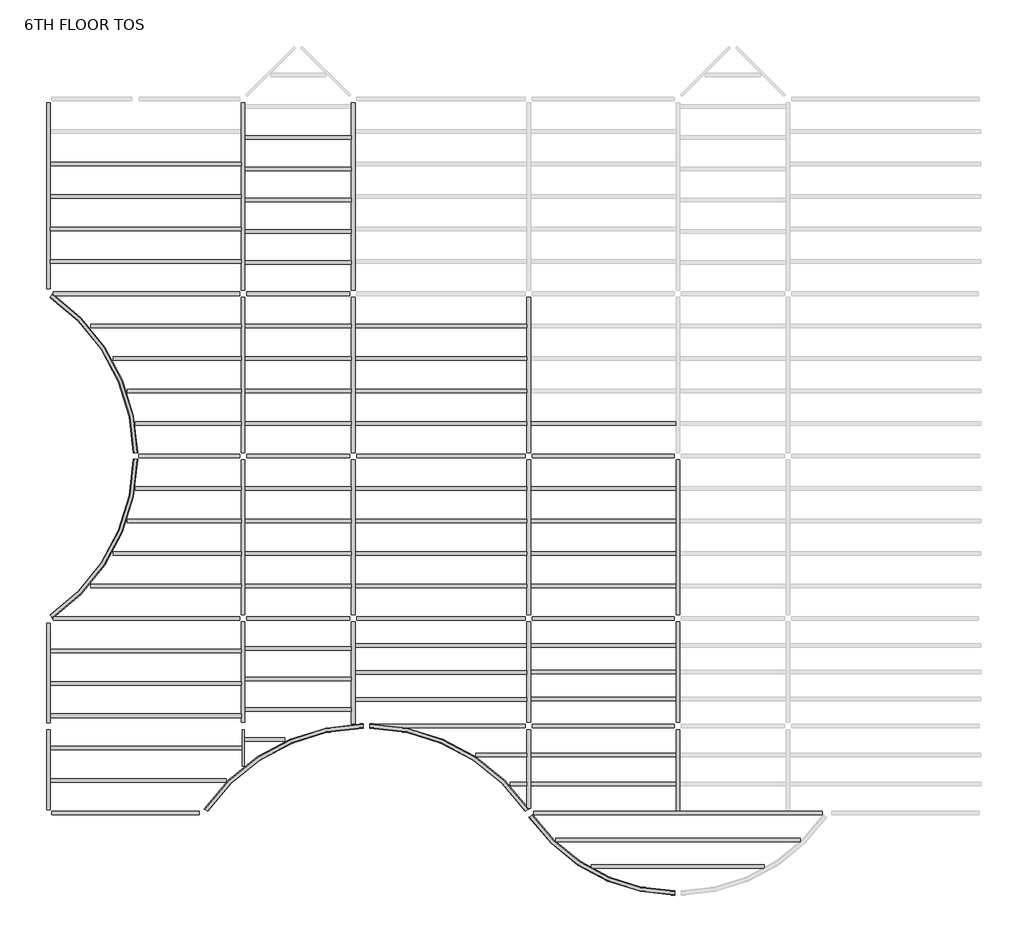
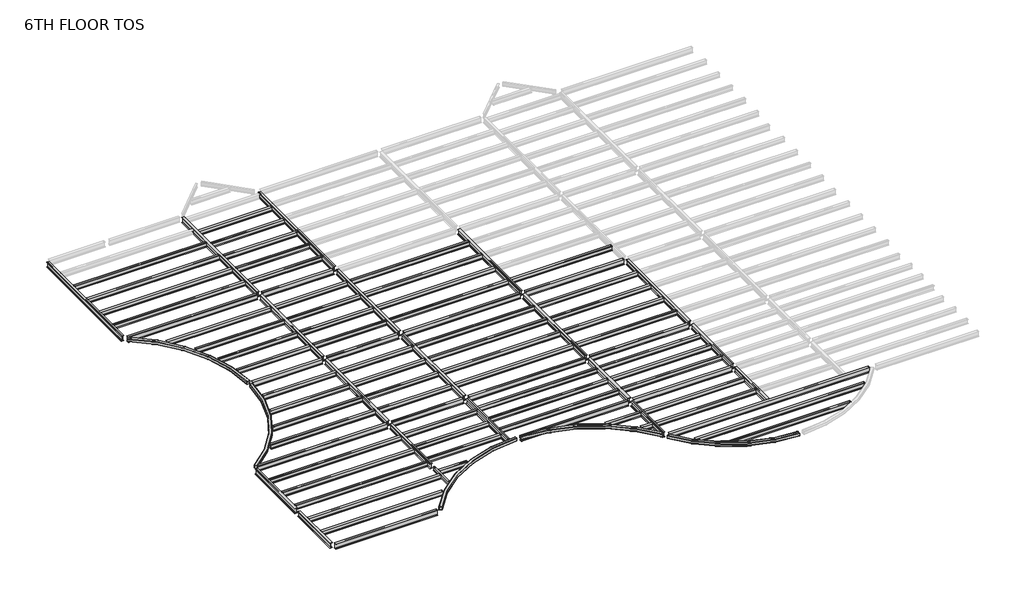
# One storey, part 1 of 2: 97 beams.
"""IFC4 building model written with IfcOpenShell, lengths in millimetres."""

from ifc_helpers import new_model, si_unit, origin, place, context, project, spatial, transform, mapped, element, save
from components import m_hss_square_hss203_2x203_2x9_5_914ff4eb, m_hss_square_hss203_2x203_2x9_5_0e3d8e6e, m_hss_square_hss203_2x203_2x9_5_16dc1c03, m_hss_square_hss203_2x203_2x9_5_18346204, m_hss_square_hss203_2x203_2x9_5_d5f1e8c4, ub_universal_beams_ub254x102x28_4e7f3726, ub_universal_beams_ub305x165x40_c4d0385b, ub_universal_beams_ub305x165x40_d3abc31d, ub_universal_beams_ub305x165x40_0c73730f, ub_universal_beams_ub305x165x40_2a963f0c, ub_universal_beams_ub305x165x40_0a5f2f96, ub_universal_beams_ub305x165x40_d1f7c369, ub_universal_beams_ub305x165x40_83d7b7d5, ub_universal_beams_ub305x165x40_729a4ea5, ub_universal_beams_ub305x165x40_71dfa851, ub_universal_beams_ub305x165x40_619b5398, ub_universal_beams_ub305x165x40_c3492db1, ub_universal_beams_ub305x165x40_8f1c350d, ub_universal_beams_ub305x165x40_3afb5f90, ub_universal_beams_ub305x165x40_767d1929, ub_universal_beams_ub305x165x40_5941ca45, ub_universal_beams_ub356x171x51_ef72dcdd, ub_universal_beams_ub356x171x51_7f80702c, ub_universal_beams_ub356x171x51_dfc36663, ub_universal_beams_ub356x171x51_405a853e, ub_universal_beams_ub356x171x51_e47b7055, ub_universal_beams_ub356x171x51_e97f8d2e, ub_universal_beams_ub356x171x51_11d6b780, ub_universal_beams_ub356x171x51_76b2d20b, ub_universal_beams_ub356x171x51_145ecd4b, ub_universal_beams_ub356x171x51_c7dff8d2, ub_universal_beams_ub356x171x51_834c6e34, ub_universal_beams_ub356x171x51_a38b99de, ub_universal_beams_ub356x171x51_d8f4cdde, ub_universal_beams_ub356x171x51_8094f821, ub_universal_beams_ub356x171x51_c03c70fb, ub_universal_beams_ub356x171x51_e661f2e4, ub_universal_beams_ub356x171x51_3ee91673, ub_universal_beams_ub356x171x51_a871b283, ub_universal_beams_ub356x171x51_741bae58

model = new_model("IFC4")

# Units and contexts
model_context = context("Model", 3, world=origin())
ifc_project = project(units=[si_unit("LENGTHUNIT", "METRE", prefix="MILLI")], contexts=[model_context])

# Site, building, storey
site = spatial("IfcSite", under=ifc_project)
building = spatial("IfcBuilding", under=site)
storey = spatial("IfcBuildingStorey", under=building, Name="6TH FLOOR TOS", Elevation=27279.6)

# Beams
placement = place(None, origin())
m_hss_square_hss203_2x203_2x9_5_shape = m_hss_square_hss203_2x203_2x9_5_914ff4eb(model_context)
element("IfcBeam", 1, ObjectType="M_HSS Square : HSS203.2X203.2X9.5", at=placement, inside=storey, context=model_context, shape_type="MappedRepresentation", body=[
    mapped(m_hss_square_hss203_2x203_2x9_5_shape, transform((22710.575, 155.575, 27178.1), x_axis=(-0.552849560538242, 0.8332810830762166, 0.0), y_axis=(-0.8332810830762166, -0.552849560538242, 0.0), z_axis=(0.0, 0.0, 1.0))),
])
m_hss_square_hss203_2x203_2x9_5_2_shape = m_hss_square_hss203_2x203_2x9_5_0e3d8e6e(model_context)
element("IfcBeam", 2, ObjectType="M_HSS Square : HSS203.2X203.2X9.5", at=placement, inside=storey, context=model_context, shape_type="MappedRepresentation", body=[
    mapped(m_hss_square_hss203_2x203_2x9_5_2_shape, transform((155.575, 9299.575, 27178.1), x_axis=(0.8332810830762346, 0.5528495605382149, 0.0), y_axis=(-0.5528495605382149, 0.8332810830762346, 0.0), z_axis=(0.0, 0.0, 1.0))),
])
m_hss_square_hss203_2x203_2x9_5_3_shape = m_hss_square_hss203_2x203_2x9_5_16dc1c03(model_context)
element("IfcBeam", 3, ObjectType="M_HSS Square : HSS203.2X203.2X9.5", at=placement, inside=storey, context=model_context, shape_type="MappedRepresentation", body=[
    mapped(m_hss_square_hss203_2x203_2x9_5_3_shape, transform((155.575, 24539.575, 27178.1), x_axis=(0.8332810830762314, -0.5528495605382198, 0.0), y_axis=(0.5528495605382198, 0.8332810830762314, 0.0), z_axis=(0.0, 0.0, 1.0))),
])
m_hss_square_hss203_2x203_2x9_5_4_shape = m_hss_square_hss203_2x203_2x9_5_18346204(model_context)
element("IfcBeam", 4, ObjectType="M_HSS Square : HSS203.2X203.2X9.5", at=placement, inside=storey, context=model_context, shape_type="MappedRepresentation", body=[
    mapped(m_hss_square_hss203_2x203_2x9_5_4_shape, transform((29734.7266693, -3601.398624, 27178.1), x_axis=(-0.9999968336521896, -0.0025164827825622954, 0.0), y_axis=(0.0025164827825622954, -0.9999968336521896, 0.0), z_axis=(0.0, 0.0, 1.0))),
])
m_hss_square_hss203_2x203_2x9_5_5_shape = m_hss_square_hss203_2x203_2x9_5_d5f1e8c4(model_context)
element("IfcBeam", 5, ObjectType="M_HSS Square : HSS203.2X203.2X9.5", at=placement, inside=storey, context=model_context, shape_type="MappedRepresentation", body=[
    mapped(m_hss_square_hss203_2x203_2x9_5_5_shape, transform((15096.4572854, 4244.5731081, 27178.1), x_axis=(-0.9999997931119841, 0.0006432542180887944, 0.0), y_axis=(-0.0006432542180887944, -0.9999997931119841, 0.0), z_axis=(0.0, 0.0, 1.0))),
])
ub_universal_beams_ub254x102x28_shape = ub_universal_beams_ub254x102x28_4e7f3726(model_context)
element("IfcBeam", 6, ObjectType="UB-Universal Beams : UB254x102x28", at=placement, inside=storey, context=model_context, shape_type="MappedRepresentation", body=[
    mapped(ub_universal_beams_ub254x102x28_shape, transform((9299.575, 3210.915913, 27149.4), x_axis=(0.0, -1.0, 0.0), y_axis=(1.0, 0.0, 0.0), z_axis=(0.0, 0.0, 1.0))),
])
ub_universal_beams_ub305x165x40_shape = ub_universal_beams_ub305x165x40_c4d0385b(model_context)
element("IfcBeam", 7, ObjectType="UB-Universal Beams : UB305x165x40", at=placement, inside=storey, context=model_context, shape_type="MappedRepresentation", body=[
    mapped(ub_universal_beams_ub305x165x40_shape, transform((4727.575, 30635.575, 27127.9), x_axis=(1.0, 0.0, 0.0), y_axis=(0.0, 1.0, 0.0), z_axis=(0.0, 0.0, 1.0))),
])
element("IfcBeam", 8, ObjectType="UB-Universal Beams : UB305x165x40", at=placement, inside=storey, context=model_context, shape_type="MappedRepresentation", body=[
    mapped(ub_universal_beams_ub305x165x40_shape, transform((4727.575, 29111.575, 27127.9), x_axis=(1.0, 0.0, 0.0), y_axis=(0.0, 1.0, 0.0), z_axis=(0.0, 0.0, 1.0))),
])
element("IfcBeam", 9, ObjectType="UB-Universal Beams : UB305x165x40", at=placement, inside=storey, context=model_context, shape_type="MappedRepresentation", body=[
    mapped(ub_universal_beams_ub305x165x40_shape, transform((4727.575, 27587.575, 27127.9), x_axis=(1.0, 0.0, 0.0), y_axis=(0.0, 1.0, 0.0), z_axis=(0.0, 0.0, 1.0))),
])
element("IfcBeam", 10, ObjectType="UB-Universal Beams : UB305x165x40", at=placement, inside=storey, context=model_context, shape_type="MappedRepresentation", body=[
    mapped(ub_universal_beams_ub305x165x40_shape, transform((4727.575, 26063.575, 27127.9), x_axis=(1.0, 0.0, 0.0), y_axis=(0.0, 1.0, 0.0), z_axis=(0.0, 0.0, 1.0))),
])
element("IfcBeam", 11, ObjectType="UB-Universal Beams : UB305x165x40", at=placement, inside=storey, context=model_context, shape_type="MappedRepresentation", body=[
    mapped(ub_universal_beams_ub305x165x40_shape, transform((4727.575, 4727.575, 27127.9), x_axis=(-1.0, 0.0, 0.0), y_axis=(0.0, -1.0, 0.0), z_axis=(0.0, 0.0, 1.0))),
])
element("IfcBeam", 12, ObjectType="UB-Universal Beams : UB305x165x40", at=placement, inside=storey, context=model_context, shape_type="MappedRepresentation", body=[
    mapped(ub_universal_beams_ub305x165x40_shape, transform((4727.575, 6251.575, 27127.9), x_axis=(-1.0, 0.0, 0.0), y_axis=(0.0, -1.0, 0.0), z_axis=(0.0, 0.0, 1.0))),
])
element("IfcBeam", 13, ObjectType="UB-Universal Beams : UB305x165x40", at=placement, inside=storey, context=model_context, shape_type="MappedRepresentation", body=[
    mapped(ub_universal_beams_ub305x165x40_shape, transform((4727.575, 7775.575, 27127.9), x_axis=(-1.0, 0.0, 0.0), y_axis=(0.0, -1.0, 0.0), z_axis=(0.0, 0.0, 1.0))),
])
ub_universal_beams_ub305x165x40_2_shape = ub_universal_beams_ub305x165x40_d3abc31d(model_context)
element("IfcBeam", 14, ObjectType="UB-Universal Beams : UB305x165x40", at=placement, inside=storey, context=model_context, shape_type="MappedRepresentation", body=[
    mapped(ub_universal_beams_ub305x165x40_2_shape, transform((11885.575, 31870.825, 27127.9), x_axis=(1.0, 0.0, 0.0), y_axis=(0.0, 1.0, 0.0), z_axis=(0.0, 0.0, 1.0))),
])
element("IfcBeam", 15, ObjectType="UB-Universal Beams : UB305x165x40", at=placement, inside=storey, context=model_context, shape_type="MappedRepresentation", body=[
    mapped(ub_universal_beams_ub305x165x40_2_shape, transform((11885.575, 30404.575, 27127.9), x_axis=(1.0, 0.0, 0.0), y_axis=(0.0, 1.0, 0.0), z_axis=(0.0, 0.0, 1.0))),
])
element("IfcBeam", 16, ObjectType="UB-Universal Beams : UB305x165x40", at=placement, inside=storey, context=model_context, shape_type="MappedRepresentation", body=[
    mapped(ub_universal_beams_ub305x165x40_2_shape, transform((11885.575, 28938.325, 27127.9), x_axis=(1.0, 0.0, 0.0), y_axis=(0.0, 1.0, 0.0), z_axis=(0.0, 0.0, 1.0))),
])
element("IfcBeam", 17, ObjectType="UB-Universal Beams : UB305x165x40", at=placement, inside=storey, context=model_context, shape_type="MappedRepresentation", body=[
    mapped(ub_universal_beams_ub305x165x40_2_shape, transform((11885.575, 27472.075, 27127.9), x_axis=(1.0, 0.0, 0.0), y_axis=(0.0, 1.0, 0.0), z_axis=(0.0, 0.0, 1.0))),
])
element("IfcBeam", 18, ObjectType="UB-Universal Beams : UB305x165x40", at=placement, inside=storey, context=model_context, shape_type="MappedRepresentation", body=[
    mapped(ub_universal_beams_ub305x165x40_2_shape, transform((11885.575, 26005.825, 27127.9), x_axis=(1.0, 0.0, 0.0), y_axis=(0.0, 1.0, 0.0), z_axis=(0.0, 0.0, 1.0))),
])
element("IfcBeam", 19, ObjectType="UB-Universal Beams : UB305x165x40", at=placement, inside=storey, context=model_context, shape_type="MappedRepresentation", body=[
    mapped(ub_universal_beams_ub305x165x40_2_shape, transform((11885.575, 23015.575, 27127.9), x_axis=(1.0, 0.0, 0.0), y_axis=(0.0, 1.0, 0.0), z_axis=(0.0, 0.0, 1.0))),
])
element("IfcBeam", 20, ObjectType="UB-Universal Beams : UB305x165x40", at=placement, inside=storey, context=model_context, shape_type="MappedRepresentation", body=[
    mapped(ub_universal_beams_ub305x165x40_2_shape, transform((11885.575, 21491.575, 27127.9), x_axis=(1.0, 0.0, 0.0), y_axis=(0.0, 1.0, 0.0), z_axis=(0.0, 0.0, 1.0))),
])
element("IfcBeam", 21, ObjectType="UB-Universal Beams : UB305x165x40", at=placement, inside=storey, context=model_context, shape_type="MappedRepresentation", body=[
    mapped(ub_universal_beams_ub305x165x40_2_shape, transform((11885.575, 19967.575, 27127.9), x_axis=(1.0, 0.0, 0.0), y_axis=(0.0, 1.0, 0.0), z_axis=(0.0, 0.0, 1.0))),
])
element("IfcBeam", 22, ObjectType="UB-Universal Beams : UB305x165x40", at=placement, inside=storey, context=model_context, shape_type="MappedRepresentation", body=[
    mapped(ub_universal_beams_ub305x165x40_2_shape, transform((11885.575, 18443.575, 27127.9), x_axis=(1.0, 0.0, 0.0), y_axis=(0.0, 1.0, 0.0), z_axis=(0.0, 0.0, 1.0))),
])
element("IfcBeam", 23, ObjectType="UB-Universal Beams : UB305x165x40", at=placement, inside=storey, context=model_context, shape_type="MappedRepresentation", body=[
    mapped(ub_universal_beams_ub305x165x40_2_shape, transform((11885.575, 15395.575, 27127.9), x_axis=(1.0, 0.0, 0.0), y_axis=(0.0, 1.0, 0.0), z_axis=(0.0, 0.0, 1.0))),
])
element("IfcBeam", 24, ObjectType="UB-Universal Beams : UB305x165x40", at=placement, inside=storey, context=model_context, shape_type="MappedRepresentation", body=[
    mapped(ub_universal_beams_ub305x165x40_2_shape, transform((11885.575, 13871.575, 27127.9), x_axis=(1.0, 0.0, 0.0), y_axis=(0.0, 1.0, 0.0), z_axis=(0.0, 0.0, 1.0))),
])
element("IfcBeam", 25, ObjectType="UB-Universal Beams : UB305x165x40", at=placement, inside=storey, context=model_context, shape_type="MappedRepresentation", body=[
    mapped(ub_universal_beams_ub305x165x40_2_shape, transform((11885.575, 12347.575, 27127.9), x_axis=(1.0, 0.0, 0.0), y_axis=(0.0, 1.0, 0.0), z_axis=(0.0, 0.0, 1.0))),
])
element("IfcBeam", 26, ObjectType="UB-Universal Beams : UB305x165x40", at=placement, inside=storey, context=model_context, shape_type="MappedRepresentation", body=[
    mapped(ub_universal_beams_ub305x165x40_2_shape, transform((11885.575, 10823.575, 27127.9), x_axis=(1.0, 0.0, 0.0), y_axis=(0.0, 1.0, 0.0), z_axis=(0.0, 0.0, 1.0))),
])
element("IfcBeam", 27, ObjectType="UB-Universal Beams : UB305x165x40", at=placement, inside=storey, context=model_context, shape_type="MappedRepresentation", body=[
    mapped(ub_universal_beams_ub305x165x40_2_shape, transform((11885.575, 5026.1840956, 27127.9), x_axis=(-1.0, 0.0, 0.0), y_axis=(0.0, -1.0, 0.0), z_axis=(0.0, 0.0, 1.0))),
])
element("IfcBeam", 28, ObjectType="UB-Universal Beams : UB305x165x40", at=placement, inside=storey, context=model_context, shape_type="MappedRepresentation", body=[
    mapped(ub_universal_beams_ub305x165x40_2_shape, transform((11885.575, 6450.6477304, 27127.9), x_axis=(-1.0, 0.0, 0.0), y_axis=(0.0, -1.0, 0.0), z_axis=(0.0, 0.0, 1.0))),
])
element("IfcBeam", 29, ObjectType="UB-Universal Beams : UB305x165x40", at=placement, inside=storey, context=model_context, shape_type="MappedRepresentation", body=[
    mapped(ub_universal_beams_ub305x165x40_2_shape, transform((11885.575, 7875.1113652, 27127.9), x_axis=(-1.0, 0.0, 0.0), y_axis=(0.0, -1.0, 0.0), z_axis=(0.0, 0.0, 1.0))),
])
ub_universal_beams_ub305x165x40_3_shape = ub_universal_beams_ub305x165x40_0c73730f(model_context)
element("IfcBeam", 30, ObjectType="UB-Universal Beams : UB305x165x40", at=placement, inside=storey, context=model_context, shape_type="MappedRepresentation", body=[
    mapped(ub_universal_beams_ub305x165x40_3_shape, transform((18591.075, 5492.5943214, 27127.9), x_axis=(-1.0, 0.0, 0.0), y_axis=(0.0, -1.0, 0.0), z_axis=(0.0, 0.0, 1.0))),
])
element("IfcBeam", 31, ObjectType="UB-Universal Beams : UB305x165x40", at=placement, inside=storey, context=model_context, shape_type="MappedRepresentation", body=[
    mapped(ub_universal_beams_ub305x165x40_3_shape, transform((18591.075, 6761.5878809, 27127.9), x_axis=(-1.0, 0.0, 0.0), y_axis=(0.0, -1.0, 0.0), z_axis=(0.0, 0.0, 1.0))),
])
element("IfcBeam", 32, ObjectType="UB-Universal Beams : UB305x165x40", at=placement, inside=storey, context=model_context, shape_type="MappedRepresentation", body=[
    mapped(ub_universal_beams_ub305x165x40_3_shape, transform((18591.075, 8030.5814405, 27127.9), x_axis=(-1.0, 0.0, 0.0), y_axis=(0.0, -1.0, 0.0), z_axis=(0.0, 0.0, 1.0))),
])
element("IfcBeam", 33, ObjectType="UB-Universal Beams : UB305x165x40", at=placement, inside=storey, context=model_context, shape_type="MappedRepresentation", body=[
    mapped(ub_universal_beams_ub305x165x40_3_shape, transform((18591.075, 15395.575, 27127.9), x_axis=(1.0, 0.0, 0.0), y_axis=(0.0, 1.0, 0.0), z_axis=(0.0, 0.0, 1.0))),
])
element("IfcBeam", 34, ObjectType="UB-Universal Beams : UB305x165x40", at=placement, inside=storey, context=model_context, shape_type="MappedRepresentation", body=[
    mapped(ub_universal_beams_ub305x165x40_3_shape, transform((18591.075, 13871.575, 27127.9), x_axis=(1.0, 0.0, 0.0), y_axis=(0.0, 1.0, 0.0), z_axis=(0.0, 0.0, 1.0))),
])
element("IfcBeam", 35, ObjectType="UB-Universal Beams : UB305x165x40", at=placement, inside=storey, context=model_context, shape_type="MappedRepresentation", body=[
    mapped(ub_universal_beams_ub305x165x40_3_shape, transform((18591.075, 12347.575, 27127.9), x_axis=(1.0, 0.0, 0.0), y_axis=(0.0, 1.0, 0.0), z_axis=(0.0, 0.0, 1.0))),
])
element("IfcBeam", 36, ObjectType="UB-Universal Beams : UB305x165x40", at=placement, inside=storey, context=model_context, shape_type="MappedRepresentation", body=[
    mapped(ub_universal_beams_ub305x165x40_3_shape, transform((18591.075, 10823.575, 27127.9), x_axis=(1.0, 0.0, 0.0), y_axis=(0.0, 1.0, 0.0), z_axis=(0.0, 0.0, 1.0))),
])
element("IfcBeam", 37, ObjectType="UB-Universal Beams : UB305x165x40", at=placement, inside=storey, context=model_context, shape_type="MappedRepresentation", body=[
    mapped(ub_universal_beams_ub305x165x40_3_shape, transform((18591.075, 23015.575, 27127.9), x_axis=(1.0, 0.0, 0.0), y_axis=(0.0, 1.0, 0.0), z_axis=(0.0, 0.0, 1.0))),
])
element("IfcBeam", 38, ObjectType="UB-Universal Beams : UB305x165x40", at=placement, inside=storey, context=model_context, shape_type="MappedRepresentation", body=[
    mapped(ub_universal_beams_ub305x165x40_3_shape, transform((18591.075, 21491.575, 27127.9), x_axis=(1.0, 0.0, 0.0), y_axis=(0.0, 1.0, 0.0), z_axis=(0.0, 0.0, 1.0))),
])
element("IfcBeam", 39, ObjectType="UB-Universal Beams : UB305x165x40", at=placement, inside=storey, context=model_context, shape_type="MappedRepresentation", body=[
    mapped(ub_universal_beams_ub305x165x40_3_shape, transform((18591.075, 19967.575, 27127.9), x_axis=(1.0, 0.0, 0.0), y_axis=(0.0, 1.0, 0.0), z_axis=(0.0, 0.0, 1.0))),
])
element("IfcBeam", 40, ObjectType="UB-Universal Beams : UB305x165x40", at=placement, inside=storey, context=model_context, shape_type="MappedRepresentation", body=[
    mapped(ub_universal_beams_ub305x165x40_3_shape, transform((18591.075, 18443.575, 27127.9), x_axis=(1.0, 0.0, 0.0), y_axis=(0.0, 1.0, 0.0), z_axis=(0.0, 0.0, 1.0))),
])
ub_universal_beams_ub305x165x40_4_shape = ub_universal_beams_ub305x165x40_2a963f0c(model_context)
element("IfcBeam", 41, ObjectType="UB-Universal Beams : UB305x165x40", at=placement, inside=storey, context=model_context, shape_type="MappedRepresentation", body=[
    mapped(ub_universal_beams_ub305x165x40_4_shape, transform((26211.075, 18443.575, 27127.9), x_axis=(1.0, 0.0, 0.0), y_axis=(0.0, 1.0, 0.0), z_axis=(0.0, 0.0, 1.0))),
])
element("IfcBeam", 42, ObjectType="UB-Universal Beams : UB305x165x40", at=placement, inside=storey, context=model_context, shape_type="MappedRepresentation", body=[
    mapped(ub_universal_beams_ub305x165x40_4_shape, transform((26211.075, 15395.575, 27127.9), x_axis=(1.0, 0.0, 0.0), y_axis=(0.0, 1.0, 0.0), z_axis=(0.0, 0.0, 1.0))),
])
element("IfcBeam", 43, ObjectType="UB-Universal Beams : UB305x165x40", at=placement, inside=storey, context=model_context, shape_type="MappedRepresentation", body=[
    mapped(ub_universal_beams_ub305x165x40_4_shape, transform((26211.075, 13871.575, 27127.9), x_axis=(1.0, 0.0, 0.0), y_axis=(0.0, 1.0, 0.0), z_axis=(0.0, 0.0, 1.0))),
])
element("IfcBeam", 44, ObjectType="UB-Universal Beams : UB305x165x40", at=placement, inside=storey, context=model_context, shape_type="MappedRepresentation", body=[
    mapped(ub_universal_beams_ub305x165x40_4_shape, transform((26211.075, 12347.575, 27127.9), x_axis=(1.0, 0.0, 0.0), y_axis=(0.0, 1.0, 0.0), z_axis=(0.0, 0.0, 1.0))),
])
element("IfcBeam", 45, ObjectType="UB-Universal Beams : UB305x165x40", at=placement, inside=storey, context=model_context, shape_type="MappedRepresentation", body=[
    mapped(ub_universal_beams_ub305x165x40_4_shape, transform((26211.075, 10823.575, 27127.9), x_axis=(1.0, 0.0, 0.0), y_axis=(0.0, 1.0, 0.0), z_axis=(0.0, 0.0, 1.0))),
])
element("IfcBeam", 46, ObjectType="UB-Universal Beams : UB305x165x40", at=placement, inside=storey, context=model_context, shape_type="MappedRepresentation", body=[
    mapped(ub_universal_beams_ub305x165x40_4_shape, transform((26211.075, 5508.325, 27127.9), x_axis=(-1.0, 0.0, 0.0), y_axis=(0.0, -1.0, 0.0), z_axis=(0.0, 0.0, 1.0))),
])
element("IfcBeam", 47, ObjectType="UB-Universal Beams : UB305x165x40", at=placement, inside=storey, context=model_context, shape_type="MappedRepresentation", body=[
    mapped(ub_universal_beams_ub305x165x40_4_shape, transform((26211.075, 6772.075, 27127.9), x_axis=(-1.0, 0.0, 0.0), y_axis=(0.0, -1.0, 0.0), z_axis=(0.0, 0.0, 1.0))),
])
element("IfcBeam", 48, ObjectType="UB-Universal Beams : UB305x165x40", at=placement, inside=storey, context=model_context, shape_type="MappedRepresentation", body=[
    mapped(ub_universal_beams_ub305x165x40_4_shape, transform((26211.075, 8035.825, 27127.9), x_axis=(-1.0, 0.0, 0.0), y_axis=(0.0, -1.0, 0.0), z_axis=(0.0, 0.0, 1.0))),
])
element("IfcBeam", 49, ObjectType="UB-Universal Beams : UB305x165x40", at=placement, inside=storey, context=model_context, shape_type="MappedRepresentation", body=[
    mapped(ub_universal_beams_ub305x165x40_4_shape, transform((26211.075, 1518.575, 27127.9), x_axis=(-1.0, 0.0, 0.0), y_axis=(0.0, -1.0, 0.0), z_axis=(0.0, 0.0, 1.0))),
])
element("IfcBeam", 50, ObjectType="UB-Universal Beams : UB305x165x40", at=placement, inside=storey, context=model_context, shape_type="MappedRepresentation", body=[
    mapped(ub_universal_beams_ub305x165x40_4_shape, transform((26211.075, 2881.575, 27127.9), x_axis=(-1.0, 0.0, 0.0), y_axis=(0.0, -1.0, 0.0), z_axis=(0.0, 0.0, 1.0))),
])
ub_universal_beams_ub305x165x40_5_shape = ub_universal_beams_ub305x165x40_0a5f2f96(model_context)
element("IfcBeam", 51, ObjectType="UB-Universal Beams : UB305x165x40", at=placement, inside=storey, context=model_context, shape_type="MappedRepresentation", body=[
    mapped(ub_universal_beams_ub305x165x40_5_shape, transform((29713.575, -2349.0918253, 27127.9), x_axis=(-1.0, 0.0, 0.0), y_axis=(0.0, -1.0, 0.0), z_axis=(0.0, 0.0, 1.0))),
])
ub_universal_beams_ub305x165x40_6_shape = ub_universal_beams_ub305x165x40_d1f7c369(model_context)
element("IfcBeam", 52, ObjectType="UB-Universal Beams : UB305x165x40", at=placement, inside=storey, context=model_context, shape_type="MappedRepresentation", body=[
    mapped(ub_universal_beams_ub305x165x40_6_shape, transform((29713.575, -1096.7584126, 27127.9), x_axis=(-1.0, 0.0, 0.0), y_axis=(0.0, -1.0, 0.0), z_axis=(0.0, 0.0, 1.0))),
])
ub_universal_beams_ub305x165x40_7_shape = ub_universal_beams_ub305x165x40_83d7b7d5(model_context)
element("IfcBeam", 53, ObjectType="UB-Universal Beams : UB305x165x40", at=placement, inside=storey, context=model_context, shape_type="MappedRepresentation", body=[
    mapped(ub_universal_beams_ub305x165x40_7_shape, transform((22157.3041106, 1518.575, 27127.9), x_axis=(-1.0, 0.0, 0.0), y_axis=(0.0, -1.0, 0.0), z_axis=(0.0, 0.0, 1.0))),
])
ub_universal_beams_ub305x165x40_8_shape = ub_universal_beams_ub305x165x40_729a4ea5(model_context)
element("IfcBeam", 54, ObjectType="UB-Universal Beams : UB305x165x40", at=placement, inside=storey, context=model_context, shape_type="MappedRepresentation", body=[
    mapped(ub_universal_beams_ub305x165x40_8_shape, transform((21302.1545844, 2881.575, 27127.9), x_axis=(-1.0, 0.0, 0.0), y_axis=(0.0, -1.0, 0.0), z_axis=(0.0, 0.0, 1.0))),
])
ub_universal_beams_ub305x165x40_9_shape = ub_universal_beams_ub305x165x40_71dfa851(model_context)
element("IfcBeam", 55, ObjectType="UB-Universal Beams : UB305x165x40", at=placement, inside=storey, context=model_context, shape_type="MappedRepresentation", body=[
    mapped(ub_universal_beams_ub305x165x40_9_shape, transform((10511.0323166, 3601.7204608, 27127.9), x_axis=(-1.0, 0.0, 0.0), y_axis=(0.0, -1.0, 0.0), z_axis=(0.0, 0.0, 1.0))),
])
ub_universal_beams_ub305x165x40_10_shape = ub_universal_beams_ub305x165x40_619b5398(model_context)
element("IfcBeam", 56, ObjectType="UB-Universal Beams : UB305x165x40", at=placement, inside=storey, context=model_context, shape_type="MappedRepresentation", body=[
    mapped(ub_universal_beams_ub305x165x40_10_shape, transform((4447.6838282, 1679.575, 27127.9), x_axis=(-1.0, 0.0, 0.0), y_axis=(0.0, -1.0, 0.0), z_axis=(0.0, 0.0, 1.0))),
])
ub_universal_beams_ub305x165x40_11_shape = ub_universal_beams_ub305x165x40_c3492db1(model_context)
element("IfcBeam", 57, ObjectType="UB-Universal Beams : UB305x165x40", at=placement, inside=storey, context=model_context, shape_type="MappedRepresentation", body=[
    mapped(ub_universal_beams_ub305x165x40_11_shape, transform((4727.575, 3203.575, 27127.9), x_axis=(-1.0, 0.0, 0.0), y_axis=(0.0, -1.0, 0.0), z_axis=(0.0, 0.0, 1.0))),
])
ub_universal_beams_ub305x165x40_12_shape = ub_universal_beams_ub305x165x40_8f1c350d(model_context)
element("IfcBeam", 58, ObjectType="UB-Universal Beams : UB305x165x40", at=placement, inside=storey, context=model_context, shape_type="MappedRepresentation", body=[
    mapped(ub_universal_beams_ub305x165x40_12_shape, transform((6708.1318611, 15395.575, 27127.9), x_axis=(1.0, 0.0, 0.0), y_axis=(0.0, 1.0, 0.0), z_axis=(0.0, 0.0, 1.0))),
])
element("IfcBeam", 59, ObjectType="UB-Universal Beams : UB305x165x40", at=placement, inside=storey, context=model_context, shape_type="MappedRepresentation", body=[
    mapped(ub_universal_beams_ub305x165x40_12_shape, transform((6708.1318611, 18443.575, 27127.9), x_axis=(1.0, 0.0, 0.0), y_axis=(0.0, 1.0, 0.0), z_axis=(0.0, 0.0, 1.0))),
])
ub_universal_beams_ub305x165x40_13_shape = ub_universal_beams_ub305x165x40_3afb5f90(model_context)
element("IfcBeam", 60, ObjectType="UB-Universal Beams : UB305x165x40", at=placement, inside=storey, context=model_context, shape_type="MappedRepresentation", body=[
    mapped(ub_universal_beams_ub305x165x40_13_shape, transform((6510.6153272, 13871.575, 27127.9), x_axis=(1.0, 0.0, 0.0), y_axis=(0.0, 1.0, 0.0), z_axis=(0.0, 0.0, 1.0))),
])
element("IfcBeam", 61, ObjectType="UB-Universal Beams : UB305x165x40", at=placement, inside=storey, context=model_context, shape_type="MappedRepresentation", body=[
    mapped(ub_universal_beams_ub305x165x40_13_shape, transform((6510.6153272, 19967.575, 27127.9), x_axis=(1.0, 0.0, 0.0), y_axis=(0.0, 1.0, 0.0), z_axis=(0.0, 0.0, 1.0))),
])
ub_universal_beams_ub305x165x40_14_shape = ub_universal_beams_ub305x165x40_767d1929(model_context)
element("IfcBeam", 62, ObjectType="UB-Universal Beams : UB305x165x40", at=placement, inside=storey, context=model_context, shape_type="MappedRepresentation", body=[
    mapped(ub_universal_beams_ub305x165x40_14_shape, transform((6159.5874928, 12347.575, 27127.9), x_axis=(1.0, 0.0, 0.0), y_axis=(0.0, 1.0, 0.0), z_axis=(0.0, 0.0, 1.0))),
])
element("IfcBeam", 63, ObjectType="UB-Universal Beams : UB305x165x40", at=placement, inside=storey, context=model_context, shape_type="MappedRepresentation", body=[
    mapped(ub_universal_beams_ub305x165x40_14_shape, transform((6159.5874928, 21491.575, 27127.9), x_axis=(1.0, 0.0, 0.0), y_axis=(0.0, 1.0, 0.0), z_axis=(0.0, 0.0, 1.0))),
])
ub_universal_beams_ub305x165x40_15_shape = ub_universal_beams_ub305x165x40_5941ca45(model_context)
element("IfcBeam", 64, ObjectType="UB-Universal Beams : UB305x165x40", at=placement, inside=storey, context=model_context, shape_type="MappedRepresentation", body=[
    mapped(ub_universal_beams_ub305x165x40_15_shape, transform((5607.9405309, 10823.575, 27127.9), x_axis=(1.0, 0.0, 0.0), y_axis=(0.0, 1.0, 0.0), z_axis=(0.0, 0.0, 1.0))),
])
element("IfcBeam", 65, ObjectType="UB-Universal Beams : UB305x165x40", at=placement, inside=storey, context=model_context, shape_type="MappedRepresentation", body=[
    mapped(ub_universal_beams_ub305x165x40_15_shape, transform((5607.9405309, 23015.575, 27127.9), x_axis=(1.0, 0.0, 0.0), y_axis=(0.0, 1.0, 0.0), z_axis=(0.0, 0.0, 1.0))),
])
ub_universal_beams_ub356x171x51_shape = ub_universal_beams_ub356x171x51_ef72dcdd(model_context)
element("IfcBeam", 66, ObjectType="UB-Universal Beams : UB356x171x51", at=placement, inside=storey, context=model_context, shape_type="MappedRepresentation", body=[
    mapped(ub_universal_beams_ub356x171x51_shape, transform((9299.575, 6772.075, 27102.1), x_axis=(0.0, -1.0, 0.0), y_axis=(1.0, 0.0, 0.0), z_axis=(0.0, 0.0, 1.0))),
])
element("IfcBeam", 67, ObjectType="UB-Universal Beams : UB356x171x51", at=placement, inside=storey, context=model_context, shape_type="MappedRepresentation", body=[
    mapped(ub_universal_beams_ub356x171x51_shape, transform((29711.575, 6772.075, 27102.1), x_axis=(0.0, 1.0, 0.0), y_axis=(-1.0, 0.0, 0.0), z_axis=(0.0, 0.0, 1.0))),
])
element("IfcBeam", 68, ObjectType="UB-Universal Beams : UB356x171x51", at=placement, inside=storey, context=model_context, shape_type="MappedRepresentation", body=[
    mapped(ub_universal_beams_ub356x171x51_shape, transform((22710.575, 6772.075, 27102.1), x_axis=(0.0, -1.0, 0.0), y_axis=(1.0, 0.0, 0.0), z_axis=(0.0, 0.0, 1.0))),
])
ub_universal_beams_ub356x171x51_2_shape = ub_universal_beams_ub356x171x51_7f80702c(model_context)
element("IfcBeam", 69, ObjectType="UB-Universal Beams : UB356x171x51", at=placement, inside=storey, context=model_context, shape_type="MappedRepresentation", body=[
    mapped(ub_universal_beams_ub356x171x51_2_shape, transform((3813.075, 155.575, 27102.1), x_axis=(-1.0, 0.0, 0.0), y_axis=(0.0, -1.0, 0.0), z_axis=(0.0, 0.0, 1.0))),
])
ub_universal_beams_ub356x171x51_3_shape = ub_universal_beams_ub356x171x51_dfc36663(model_context)
element("IfcBeam", 70, ObjectType="UB-Universal Beams : UB356x171x51", at=placement, inside=storey, context=model_context, shape_type="MappedRepresentation", body=[
    mapped(ub_universal_beams_ub356x171x51_3_shape, transform((155.575, 2200.075, 27102.1), x_axis=(0.0, 1.0, 0.0), y_axis=(-1.0, 0.0, 0.0), z_axis=(0.0, 0.0, 1.0))),
])
ub_universal_beams_ub356x171x51_4_shape = ub_universal_beams_ub356x171x51_405a853e(model_context)
element("IfcBeam", 71, ObjectType="UB-Universal Beams : UB356x171x51", at=placement, inside=storey, context=model_context, shape_type="MappedRepresentation", body=[
    mapped(ub_universal_beams_ub356x171x51_4_shape, transform((155.575, 6772.075, 27102.1), x_axis=(0.0, 1.0, 0.0), y_axis=(-1.0, 0.0, 0.0), z_axis=(0.0, 0.0, 1.0))),
])
ub_universal_beams_ub356x171x51_5_shape = ub_universal_beams_ub356x171x51_e47b7055(model_context)
element("IfcBeam", 72, ObjectType="UB-Universal Beams : UB356x171x51", at=placement, inside=storey, context=model_context, shape_type="MappedRepresentation", body=[
    mapped(ub_universal_beams_ub356x171x51_5_shape, transform((155.575, 29111.575, 27102.1), x_axis=(0.0, 1.0, 0.0), y_axis=(-1.0, 0.0, 0.0), z_axis=(0.0, 0.0, 1.0))),
])
ub_universal_beams_ub356x171x51_6_shape = ub_universal_beams_ub356x171x51_e97f8d2e(model_context)
element("IfcBeam", 73, ObjectType="UB-Universal Beams : UB356x171x51", at=placement, inside=storey, context=model_context, shape_type="MappedRepresentation", body=[
    mapped(ub_universal_beams_ub356x171x51_6_shape, transform((4727.575, 24539.575, 27102.1), x_axis=(1.0, 0.0, 0.0), y_axis=(0.0, 1.0, 0.0), z_axis=(0.0, 0.0, 1.0))),
])
ub_universal_beams_ub356x171x51_7_shape = ub_universal_beams_ub356x171x51_11d6b780(model_context)
element("IfcBeam", 74, ObjectType="UB-Universal Beams : UB356x171x51", at=placement, inside=storey, context=model_context, shape_type="MappedRepresentation", body=[
    mapped(ub_universal_beams_ub356x171x51_7_shape, transform((11885.575, 24539.575, 27102.1), x_axis=(1.0, 0.0, 0.0), y_axis=(0.0, 1.0, 0.0), z_axis=(0.0, 0.0, 1.0))),
])
element("IfcBeam", 75, ObjectType="UB-Universal Beams : UB356x171x51", at=placement, inside=storey, context=model_context, shape_type="MappedRepresentation", body=[
    mapped(ub_universal_beams_ub356x171x51_7_shape, transform((11885.575, 9299.575, 27102.1), x_axis=(-1.0, 0.0, 0.0), y_axis=(0.0, -1.0, 0.0), z_axis=(0.0, 0.0, 1.0))),
])
element("IfcBeam", 76, ObjectType="UB-Universal Beams : UB356x171x51", at=placement, inside=storey, context=model_context, shape_type="MappedRepresentation", body=[
    mapped(ub_universal_beams_ub356x171x51_7_shape, transform((11885.575, 16919.575, 27102.1), x_axis=(1.0, 0.0, 0.0), y_axis=(0.0, 1.0, 0.0), z_axis=(0.0, 0.0, 1.0))),
])
ub_universal_beams_ub356x171x51_8_shape = ub_universal_beams_ub356x171x51_76b2d20b(model_context)
element("IfcBeam", 77, ObjectType="UB-Universal Beams : UB356x171x51", at=placement, inside=storey, context=model_context, shape_type="MappedRepresentation", body=[
    mapped(ub_universal_beams_ub356x171x51_8_shape, transform((18591.075, 9299.575, 27102.1), x_axis=(-1.0, 0.0, 0.0), y_axis=(0.0, -1.0, 0.0), z_axis=(0.0, 0.0, 1.0))),
])
element("IfcBeam", 78, ObjectType="UB-Universal Beams : UB356x171x51", at=placement, inside=storey, context=model_context, shape_type="MappedRepresentation", body=[
    mapped(ub_universal_beams_ub356x171x51_8_shape, transform((18591.075, 16919.575, 27102.1), x_axis=(1.0, 0.0, 0.0), y_axis=(0.0, 1.0, 0.0), z_axis=(0.0, 0.0, 1.0))),
])
ub_universal_beams_ub356x171x51_9_shape = ub_universal_beams_ub356x171x51_145ecd4b(model_context)
element("IfcBeam", 79, ObjectType="UB-Universal Beams : UB356x171x51", at=placement, inside=storey, context=model_context, shape_type="MappedRepresentation", body=[
    mapped(ub_universal_beams_ub356x171x51_9_shape, transform((26211.075, 9299.575, 27102.1), x_axis=(-1.0, 0.0, 0.0), y_axis=(0.0, -1.0, 0.0), z_axis=(0.0, 0.0, 1.0))),
])
element("IfcBeam", 80, ObjectType="UB-Universal Beams : UB356x171x51", at=placement, inside=storey, context=model_context, shape_type="MappedRepresentation", body=[
    mapped(ub_universal_beams_ub356x171x51_9_shape, transform((26211.075, 16919.575, 27102.1), x_axis=(1.0, 0.0, 0.0), y_axis=(0.0, 1.0, 0.0), z_axis=(0.0, 0.0, 1.0))),
])
element("IfcBeam", 81, ObjectType="UB-Universal Beams : UB356x171x51", at=placement, inside=storey, context=model_context, shape_type="MappedRepresentation", body=[
    mapped(ub_universal_beams_ub356x171x51_9_shape, transform((26211.075, 4244.575, 27102.1), x_axis=(-1.0, 0.0, 0.0), y_axis=(0.0, -1.0, 0.0), z_axis=(0.0, 0.0, 1.0))),
])
ub_universal_beams_ub356x171x51_10_shape = ub_universal_beams_ub356x171x51_c7dff8d2(model_context)
element("IfcBeam", 82, ObjectType="UB-Universal Beams : UB356x171x51", at=placement, inside=storey, context=model_context, shape_type="MappedRepresentation", body=[
    mapped(ub_universal_beams_ub356x171x51_10_shape, transform((4727.575, 9299.575, 27102.1), x_axis=(-1.0, 0.0, 0.0), y_axis=(0.0, -1.0, 0.0), z_axis=(0.0, 0.0, 1.0))),
])
ub_universal_beams_ub356x171x51_11_shape = ub_universal_beams_ub356x171x51_834c6e34(model_context)
element("IfcBeam", 83, ObjectType="UB-Universal Beams : UB356x171x51", at=placement, inside=storey, context=model_context, shape_type="MappedRepresentation", body=[
    mapped(ub_universal_beams_ub356x171x51_11_shape, transform((14471.575, 6761.5878809, 27102.1), x_axis=(0.0, -1.0, 0.0), y_axis=(1.0, 0.0, 0.0), z_axis=(0.0, 0.0, 1.0))),
])
ub_universal_beams_ub356x171x51_12_shape = ub_universal_beams_ub356x171x51_a38b99de(model_context)
element("IfcBeam", 84, ObjectType="UB-Universal Beams : UB356x171x51", at=placement, inside=storey, context=model_context, shape_type="MappedRepresentation", body=[
    mapped(ub_universal_beams_ub356x171x51_12_shape, transform((9299.575, 13109.575, 27102.1), x_axis=(0.0, 1.0, 0.0), y_axis=(-1.0, 0.0, 0.0), z_axis=(0.0, 0.0, 1.0))),
])
element("IfcBeam", 85, ObjectType="UB-Universal Beams : UB356x171x51", at=placement, inside=storey, context=model_context, shape_type="MappedRepresentation", body=[
    mapped(ub_universal_beams_ub356x171x51_12_shape, transform((9299.575, 20729.575, 27102.1), x_axis=(0.0, 1.0, 0.0), y_axis=(-1.0, 0.0, 0.0), z_axis=(0.0, 0.0, 1.0))),
])
element("IfcBeam", 86, ObjectType="UB-Universal Beams : UB356x171x51", at=placement, inside=storey, context=model_context, shape_type="MappedRepresentation", body=[
    mapped(ub_universal_beams_ub356x171x51_12_shape, transform((14471.575, 20729.575, 27102.1), x_axis=(0.0, -1.0, 0.0), y_axis=(1.0, 0.0, 0.0), z_axis=(0.0, 0.0, 1.0))),
])
element("IfcBeam", 87, ObjectType="UB-Universal Beams : UB356x171x51", at=placement, inside=storey, context=model_context, shape_type="MappedRepresentation", body=[
    mapped(ub_universal_beams_ub356x171x51_12_shape, transform((14471.575, 13109.575, 27102.1), x_axis=(0.0, -1.0, 0.0), y_axis=(1.0, 0.0, 0.0), z_axis=(0.0, 0.0, 1.0))),
])
element("IfcBeam", 88, ObjectType="UB-Universal Beams : UB356x171x51", at=placement, inside=storey, context=model_context, shape_type="MappedRepresentation", body=[
    mapped(ub_universal_beams_ub356x171x51_12_shape, transform((22710.575, 20729.575, 27102.1), x_axis=(0.0, -1.0, 0.0), y_axis=(1.0, 0.0, 0.0), z_axis=(0.0, 0.0, 1.0))),
])
element("IfcBeam", 89, ObjectType="UB-Universal Beams : UB356x171x51", at=placement, inside=storey, context=model_context, shape_type="MappedRepresentation", body=[
    mapped(ub_universal_beams_ub356x171x51_12_shape, transform((22710.575, 13109.575, 27102.1), x_axis=(0.0, -1.0, 0.0), y_axis=(1.0, 0.0, 0.0), z_axis=(0.0, 0.0, 1.0))),
])
element("IfcBeam", 90, ObjectType="UB-Universal Beams : UB356x171x51", at=placement, inside=storey, context=model_context, shape_type="MappedRepresentation", body=[
    mapped(ub_universal_beams_ub356x171x51_12_shape, transform((29711.575, 13109.575, 27102.1), x_axis=(0.0, 1.0, 0.0), y_axis=(-1.0, 0.0, 0.0), z_axis=(0.0, 0.0, 1.0))),
])
ub_universal_beams_ub356x171x51_13_shape = ub_universal_beams_ub356x171x51_d8f4cdde(model_context)
element("IfcBeam", 91, ObjectType="UB-Universal Beams : UB356x171x51", at=placement, inside=storey, context=model_context, shape_type="MappedRepresentation", body=[
    mapped(ub_universal_beams_ub356x171x51_13_shape, transform((9299.575, 29111.575, 27102.1), x_axis=(0.0, 1.0, 0.0), y_axis=(-1.0, 0.0, 0.0), z_axis=(0.0, 0.0, 1.0))),
])
ub_universal_beams_ub356x171x51_14_shape = ub_universal_beams_ub356x171x51_8094f821(model_context)
element("IfcBeam", 92, ObjectType="UB-Universal Beams : UB356x171x51", at=placement, inside=storey, context=model_context, shape_type="MappedRepresentation", body=[
    mapped(ub_universal_beams_ub356x171x51_14_shape, transform((6772.075, 16919.575, 27102.1), x_axis=(1.0, 0.0, 0.0), y_axis=(0.0, 1.0, 0.0), z_axis=(0.0, 0.0, 1.0))),
])
ub_universal_beams_ub356x171x51_15_shape = ub_universal_beams_ub356x171x51_c03c70fb(model_context)
element("IfcBeam", 93, ObjectType="UB-Universal Beams : UB356x171x51", at=placement, inside=storey, context=model_context, shape_type="MappedRepresentation", body=[
    mapped(ub_universal_beams_ub356x171x51_15_shape, transform((14471.575, 29111.575, 27102.1), x_axis=(0.0, -1.0, 0.0), y_axis=(1.0, 0.0, 0.0), z_axis=(0.0, 0.0, 1.0))),
])
ub_universal_beams_ub356x171x51_16_shape = ub_universal_beams_ub356x171x51_e661f2e4(model_context)
element("IfcBeam", 94, ObjectType="UB-Universal Beams : UB356x171x51", at=placement, inside=storey, context=model_context, shape_type="MappedRepresentation", body=[
    mapped(ub_universal_beams_ub356x171x51_16_shape, transform((29713.575, 155.575, 27102.1), x_axis=(-1.0, 0.0, 0.0), y_axis=(0.0, -1.0, 0.0), z_axis=(0.0, 0.0, 1.0))),
])
ub_universal_beams_ub356x171x51_17_shape = ub_universal_beams_ub356x171x51_3ee91673(model_context)
element("IfcBeam", 95, ObjectType="UB-Universal Beams : UB356x171x51", at=placement, inside=storey, context=model_context, shape_type="MappedRepresentation", body=[
    mapped(ub_universal_beams_ub356x171x51_17_shape, transform((18900.575, 4244.575, 27102.1), x_axis=(-1.0, 0.0, 0.0), y_axis=(0.0, -1.0, 0.0), z_axis=(0.0, 0.0, 1.0))),
])
ub_universal_beams_ub356x171x51_18_shape = ub_universal_beams_ub356x171x51_a871b283(model_context)
element("IfcBeam", 96, ObjectType="UB-Universal Beams : UB356x171x51", at=placement, inside=storey, context=model_context, shape_type="MappedRepresentation", body=[
    mapped(ub_universal_beams_ub356x171x51_18_shape, transform((22710.575, 2200.075, 27102.1), x_axis=(0.0, -1.0, 0.0), y_axis=(1.0, 0.0, 0.0), z_axis=(0.0, 0.0, 1.0))),
])
ub_universal_beams_ub356x171x51_19_shape = ub_universal_beams_ub356x171x51_741bae58(model_context)
element("IfcBeam", 97, ObjectType="UB-Universal Beams : UB356x171x51", at=placement, inside=storey, context=model_context, shape_type="MappedRepresentation", body=[
    mapped(ub_universal_beams_ub356x171x51_19_shape, transform((29711.575, 2200.075, 27102.1), x_axis=(0.0, -1.0, 0.0), y_axis=(1.0, 0.0, 0.0), z_axis=(0.0, 0.0, 1.0))),
])

save(model, "model.ifc")
